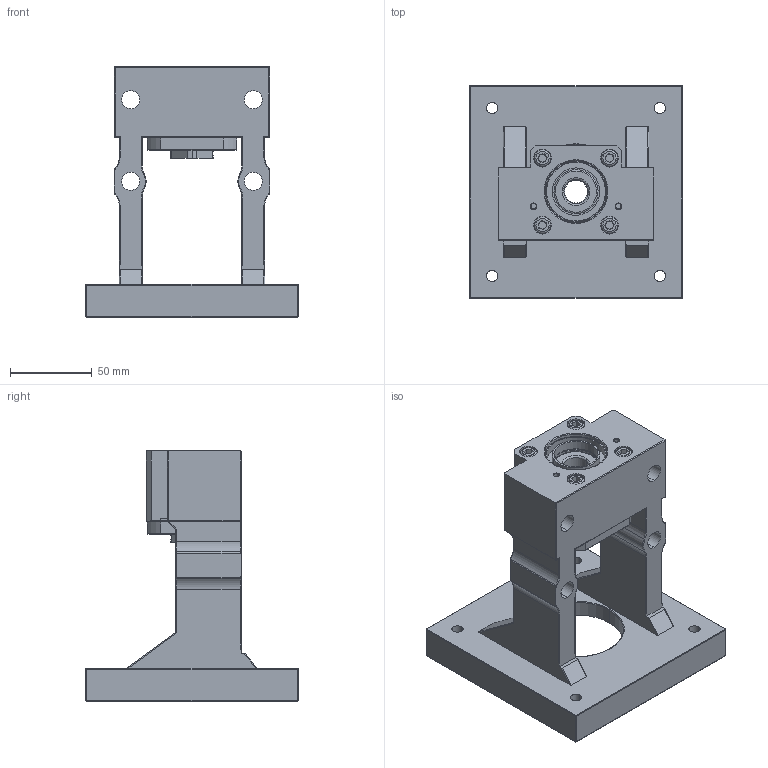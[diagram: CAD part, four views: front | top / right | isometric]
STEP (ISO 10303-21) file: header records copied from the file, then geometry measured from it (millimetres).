
FILE_DESCRIPTION (( 'STEP AP203' ), '1' );
FILE_NAME ('MBCS15-G.STEP', '2017-12-28T07:48:59', ( '' ), ( '' ), 'SwSTEP 2.0', 'SolidWorks 2017', '' );
FILE_SCHEMA (( 'CONFIG_CONTROL_DESIGN' ));
Length unit declared in the file: millimetre
Products named in the file (1): MBCS15-G
Bounding box: 130 x 130 x 153 mm (x, y, z)
Surface area: 108906.4 mm2 (no closed solid volume)
Topology: 0 solids, 23 shells, 377 faces, 963 edges, 600 vertices
Faces by surface type: cylinder 159, plane 102, torus 52, cone 42, sphere 22
Entity records: 11467 total; most frequent: CARTESIAN_POINT 2351, DIRECTION 2047, ORIENTED_EDGE 1723, EDGE_CURVE 923, AXIS2_PLACEMENT_3D 816, VERTEX_POINT 582, CIRCLE 438, EDGE_LOOP 437
